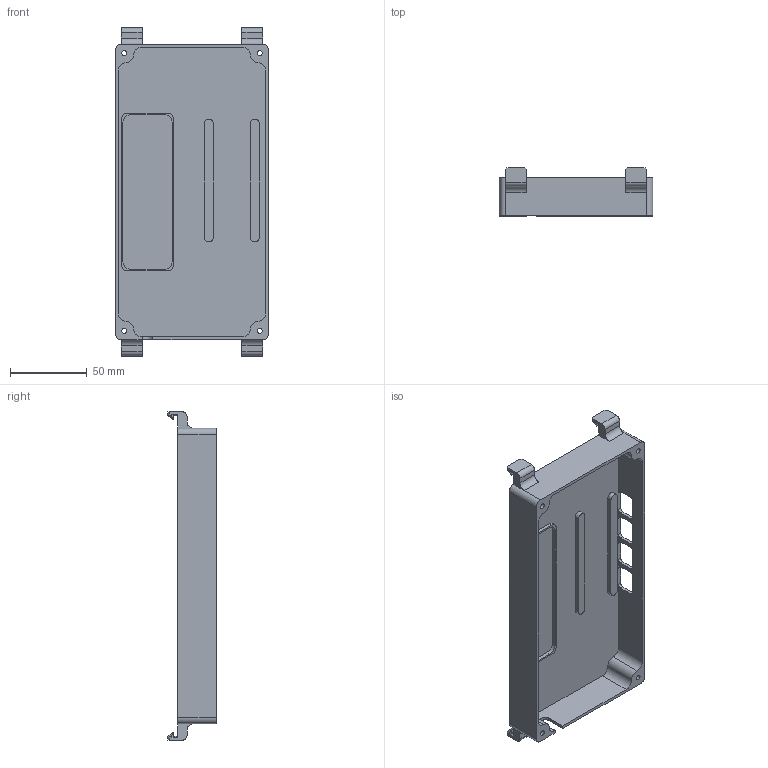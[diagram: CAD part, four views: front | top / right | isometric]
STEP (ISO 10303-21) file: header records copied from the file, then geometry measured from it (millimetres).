
FILE_DESCRIPTION(/* description */ ('STEP AP242 Edition 2','CAx-IF Rec.Pracs.---Representation and Presentation of Product Manufacturing Information (PMI)---4.0---2014-10-13','CAx-IF Rec.Pracs.---3D Tessellated Geometry---0.4---2014-09-14','2;1','CAx-IF Rec.Pracs.---User Defined Attributes---1.5---2016-08-15'),/* implementation_level */ '2;1');
FILE_NAME(/* name */ 'Tarok - Total Assemply - RPI and CAN holder lower',/* time_stamp */ '2026-05-23T09:34:08Z',/* author */ (''),/* organization */ (''),/* preprocessor_version */ 'ST-DEVELOPER v20',/* originating_system */ 'ONSHAPE BY PTC INC, 1.215',/* authorisation */ ' ');
FILE_SCHEMA (('AP242_MANAGED_MODEL_BASED_3D_ENGINEERING_MIM_LF { 1 0 10303 442 3 1 4 }'));
Length unit declared in the file: metre
Products named in the file (1): RPI and CAN holder lower
Bounding box: 100 x 31.5 x 214 mm (x, y, z)
Volume: 97555.2 mm3; surface area: 69282.2 mm2
Topology: 1 solids, 1 shells, 174 faces, 472 edges, 300 vertices
Faces by surface type: plane 117, cylinder 57
Full cylindrical faces by diameter (mm): 3.3 x4
Entity records: 5452 total; most frequent: CARTESIAN_POINT 943, ORIENTED_EDGE 936, DIRECTION 932, EDGE_CURVE 468, LINE 354, VECTOR 354, VERTEX_POINT 300, AXIS2_PLACEMENT_3D 289
